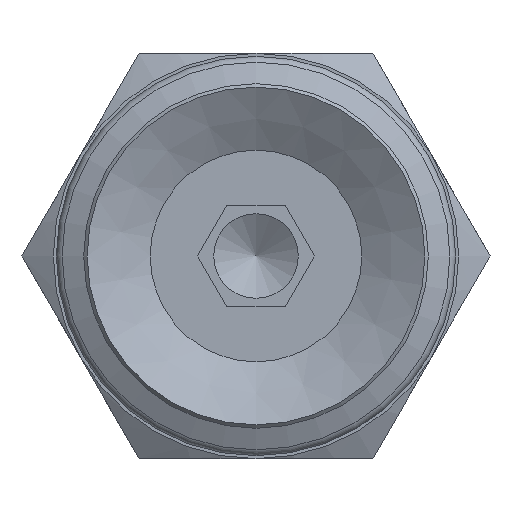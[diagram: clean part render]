
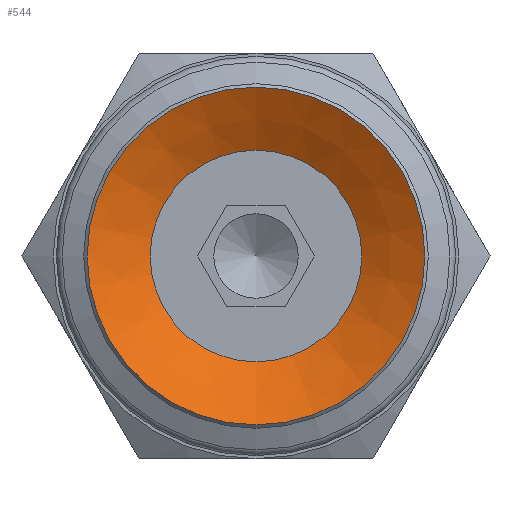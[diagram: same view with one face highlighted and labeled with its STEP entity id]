
A CAD part, front view. The second image highlights one B-rep face of the part: STEP entity #544.
In plain terms, the highlighted conical face has half-angle 60 degrees and reference radius 3.133 mm.
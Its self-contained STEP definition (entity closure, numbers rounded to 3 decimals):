
#544=ADVANCED_FACE('',(#772,#773),#774,.F.);
#772=FACE_BOUND('',#1039,.T.);
#773=FACE_OUTER_BOUND('',#1040,.T.);
#774=CONICAL_SURFACE('',#1041,3.133,1.047);
#1039=EDGE_LOOP('',(#1713));
#1040=EDGE_LOOP('',(#1714));
#1041=AXIS2_PLACEMENT_3D('',#1715,#1716,#1717);
#1713=ORIENTED_EDGE('',*,*,#1987,.F.);
#1714=ORIENTED_EDGE('',*,*,#1988,.T.);
#1715=CARTESIAN_POINT('',(0.0,7.659,0.));
#1716=DIRECTION('',(-0.0,-1.0,0.));
#1717=DIRECTION('',(0.0,0.,-1.0));
#1987=EDGE_CURVE('',#2295,#2295,#2296,.T.);
#1988=EDGE_CURVE('',#2297,#2297,#2298,.T.);
#2295=VERTEX_POINT('',#3189);
#2296=CIRCLE('',#3190,3.133);
#2297=VERTEX_POINT('',#3191);
#2298=CIRCLE('',#3192,5.0);
#3189=CARTESIAN_POINT('',(0.0,7.659,-3.133));
#3190=AXIS2_PLACEMENT_3D('',#3456,#3457,#3458);
#3191=CARTESIAN_POINT('',(0.0,6.581,-5.0));
#3192=AXIS2_PLACEMENT_3D('',#3459,#3460,#3461);
#3456=CARTESIAN_POINT('',(0.0,7.659,0.));
#3457=DIRECTION('',(0.0,-1.0,0.));
#3458=DIRECTION('',(0.0,0.,-1.0));
#3459=CARTESIAN_POINT('',(0.0,6.581,0.0));
#3460=DIRECTION('',(0.0,-1.0,0.));
#3461=DIRECTION('',(0.0,0.,-1.0));
